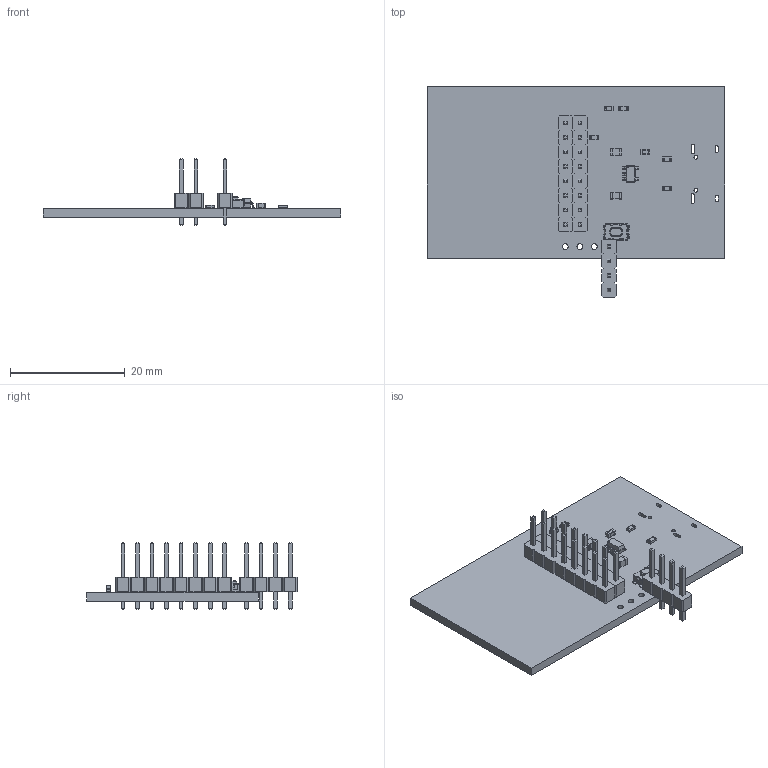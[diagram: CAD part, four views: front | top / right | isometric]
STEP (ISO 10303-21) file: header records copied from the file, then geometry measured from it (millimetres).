
FILE_DESCRIPTION(('KiCad electronic assembly'),'2;1');
FILE_NAME('esp32s31-mini.step','2026-10-21T16:04:03',('Pcbnew'),('Kicad' ),'Open CASCADE STEP processor 7.9','KiCad to STEP converter', 'Unknown');
FILE_SCHEMA(('AUTOMOTIVE_DESIGN { 1 0 10303 214 1 1 1 1 }'));
Length unit declared in the file: millimetre
Products named in the file (18): esp32s31-mini 1; SOT-23-5; R_0603_1608Metric; PinHeader_1x08_P2.54mm_Vertical; PinHeader_1x08_P254mm_Vertical; LED_0603_1608Metric; C_0805_2012Metric; C_0603_1608Metric; PinHeader_1x04_P2.54mm_Vertical; PinHeader_1x04_P254mm_Vertical; SW_Push_1P1T_NO_CK_KMR2; esp32s31-mini_PCB
Assembly tree (22 placements, depth 3):
  esp32s31-mini 1
    SOT-23-5
      SOT-23-5
    R_0603_1608Metric  x4
      R_0603_1608Metric
    PinHeader_1x08_P2.54mm_Vertical  x2
      PinHeader_1x08_P254mm_Vertical
    LED_0603_1608Metric
      LED_0603_1608Metric
    C_0805_2012Metric  x2
      C_0805_2012Metric
    C_0603_1608Metric
      C_0603_1608Metric
    PinHeader_1x04_P2.54mm_Vertical
      PinHeader_1x04_P254mm_Vertical
    SW_Push_1P1T_NO_CK_KMR2
      SW_Push_1P1T_NO_CK_KMR2
    esp32s31-mini_PCB
Bounding box: 52 x 36.83 x 11.54 mm (x, y, z)
Volume: 2814.7 mm3; surface area: 4612.6 mm2
Topology: 14 solids, 14 shells, 1008 faces, 2571 edges, 1633 vertices
Faces by surface type: plane 834, cylinder 152, bspline 16, torus 6
Full cylindrical faces by diameter (mm): 0.65 x2, 1 x20
Entity records: 26636 total; most frequent: CARTESIAN_POINT 3787, ORIENTED_EDGE 3650, DIRECTION 3466, EDGE_CURVE 1825, LINE 1562, VECTOR 1562, VERTEX_POINT 1161, AXIS2_PLACEMENT_3D 952
